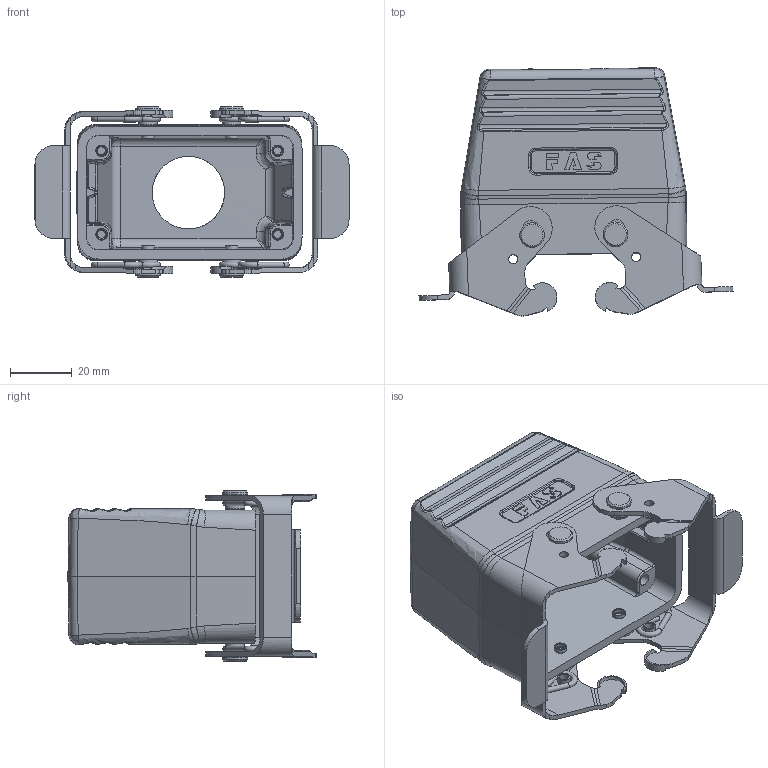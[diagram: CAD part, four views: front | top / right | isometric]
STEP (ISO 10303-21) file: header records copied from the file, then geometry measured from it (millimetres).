
FILE_DESCRIPTION (( 'STEP AP203' ), '1' );
FILE_NAME ('H10B-TBF-M25.STEP', '2023-06-06T07:54:17', ( '' ), ( '' ), 'SwSTEP 2.0', 'SolidWorks 2016', '' );
FILE_SCHEMA (( 'CONFIG_CONTROL_DESIGN' ));
Length unit declared in the file: millimetre
Products named in the file (1): H10B-TBF-M25
Bounding box: 101.6 x 80.3 x 55 mm (x, y, z)
Volume: 67562.5 mm3; surface area: 40134 mm2
Topology: 1 solids, 1 shells, 721 faces, 1879 edges, 1194 vertices
Faces by surface type: plane 282, cylinder 247, bspline 131, torus 33, cone 24, sphere 4
Full cylindrical faces by diameter (mm): 1.8 x4, 2.5 x4, 3 x4, 3.3 x4, 4 x10, 6 x4, 8 x4, 23.5 x1
Entity records: 31188 total; most frequent: CARTESIAN_POINT 15326, ORIENTED_EDGE 3542, DIRECTION 2835, EDGE_CURVE 1771, VERTEX_POINT 1151, AXIS2_PLACEMENT_3D 1014, EDGE_LOOP 842, LINE 807
